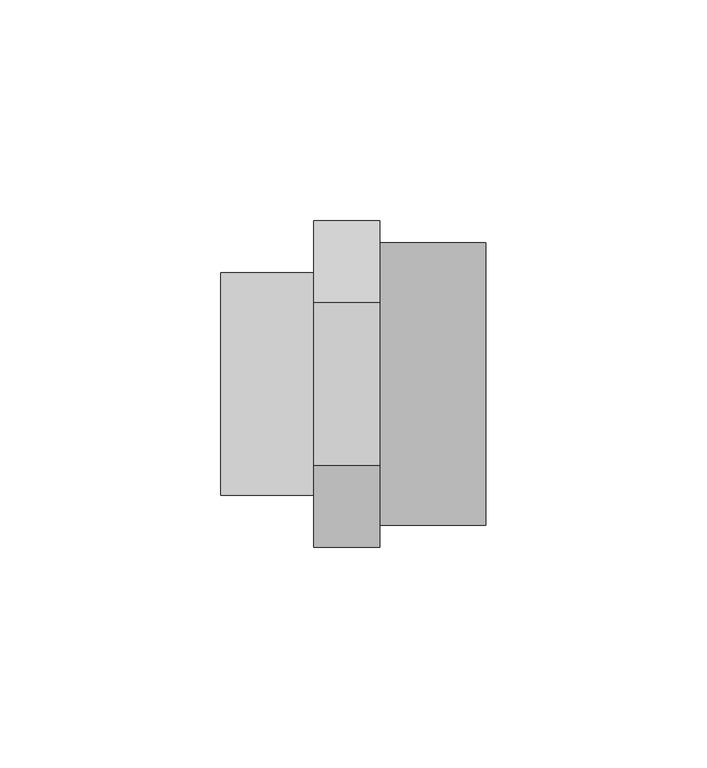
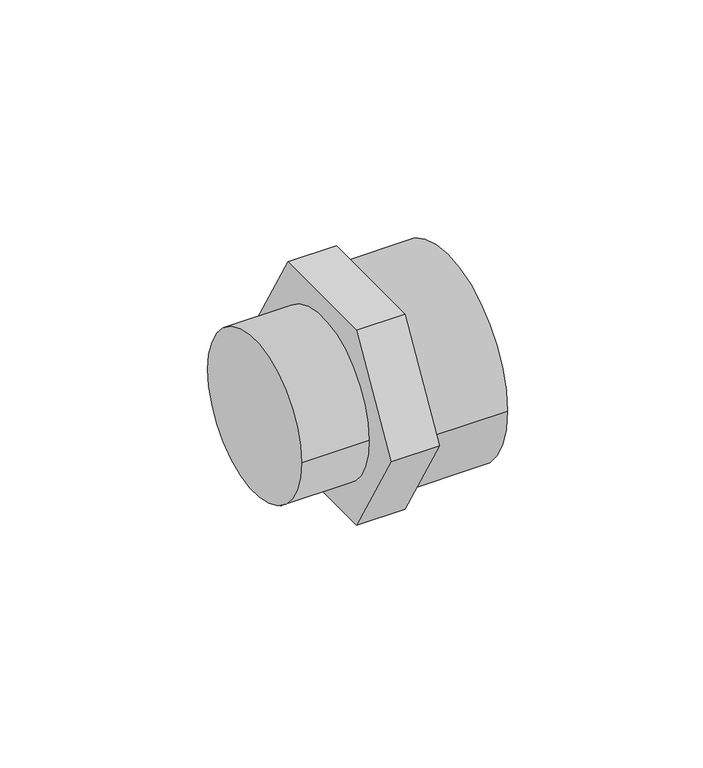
"""IFC4 building model written with IfcOpenShell, lengths in millimetres: pipe fitting geometry, 01011006 : Mamelons de réductio MxF."""

from ifc_helpers import new_model, si_unit, point, frame, origin, origin_2d, place, context, project, spatial, polyline, circle_curve, trimmed, segment, composite_curve, outline, extrude, source, transform, mapped, element, save


def pipe_fitting_8411d0e6(model_context):
    return source(origin(), model_context, "Body", "SweptSolid", [
        extrude(outline(composite_curve([segment(trimmed(circle_curve(origin_2d(), 25.2), [point((25.2, 0.0))], [point((-25.2, 0.0))], False, "CARTESIAN"), True, "CONTINUOUS"), segment(trimmed(circle_curve(origin_2d(), 25.2), [point((-25.2, 0.0))], [point((25.2, 0.0))], False, "CARTESIAN"), True, "CONTINUOUS")], self_intersect=False)), frame((0.0, 0.0, 0.0), z_axis=(1.0, 0.0, 0.0), x_axis=(0.0, 1.0, 0.0)), (0.0, 0.0, 1.0), 21.0),
        extrude(outline(polyline([(-18.4752086, 32.0), (18.4752086, 32.0), (36.9504172, 0.0), (18.4752086, -32.0), (-18.4752086, -32.0), (-36.9504172, 0.0), (-18.4752086, 32.0)])), frame((21.0, 0.0, 0.0), z_axis=(1.0, 0.0, 0.0), x_axis=(0.0, 1.0, 0.0)), (0.0, 0.0, 1.0), 15.0),
        extrude(outline(composite_curve([segment(trimmed(circle_curve(origin_2d(), 32.0), [point((-32.0, 0.0))], [point((32.0, 0.0))], False, "CARTESIAN"), True, "CONTINUOUS"), segment(trimmed(circle_curve(origin_2d(), 32.0), [point((32.0, 0.0))], [point((-32.0, 0.0))], False, "CARTESIAN"), True, "CONTINUOUS")], self_intersect=False)), frame((36.0, 0.0, 0.0), z_axis=(1.0, 0.0, 0.0), x_axis=(0.0, 1.0, 0.0)), (0.0, 0.0, 1.0), 24.0),
    ])


if __name__ == "__main__":
    model = new_model("IFC4")
    model_context = context("Model", 3, world=origin())
    ifc_project = project(units=[si_unit("LENGTHUNIT", "METRE", prefix="MILLI")], contexts=[model_context])
    site = spatial("IfcSite", under=ifc_project)
    building = spatial("IfcBuilding", under=site)
    placement = place(None, origin())
    pipe_fitting_shape = pipe_fitting_8411d0e6(model_context)
    element("IfcPipeFitting", 1, ObjectType="01011006 : Mamelons de réductio MxF", at=placement, inside=building, context=model_context, shape_type="MappedRepresentation", body=[
        mapped(pipe_fitting_shape, transform((0.0, 0.0, 0.0), x_axis=(1.0, 0.0, 0.0), y_axis=(0.0, 1.0, 0.0), z_axis=(0.0, 0.0, 1.0))),
    ])
    save(model, "model.ifc")
